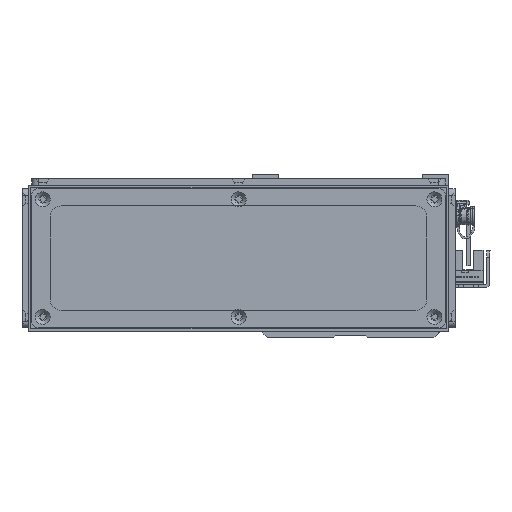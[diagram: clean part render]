
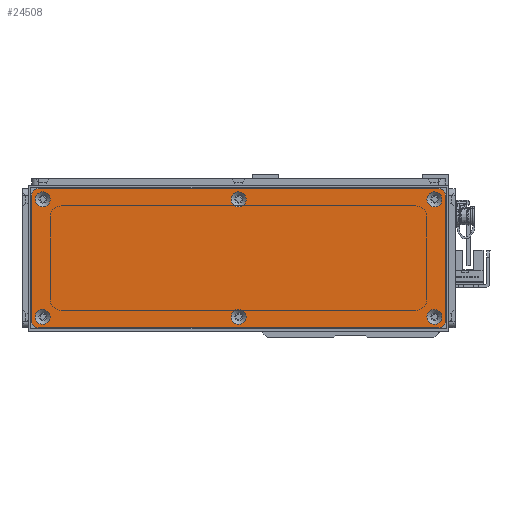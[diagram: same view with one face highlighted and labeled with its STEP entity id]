
A CAD part, left-side view. The second image highlights one B-rep face of the part: STEP entity #24508.
In plain terms, the highlighted planar face has unit normal (-1, 0, 0) as drawn and (0, 0, 1) by its records, which use the part's own axes.
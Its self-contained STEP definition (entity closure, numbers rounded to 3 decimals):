
#1009=FACE_BOUND('',#5280,.T.);
#1010=FACE_BOUND('',#5281,.T.);
#1011=FACE_BOUND('',#5282,.T.);
#1012=FACE_BOUND('',#5283,.T.);
#1013=FACE_BOUND('',#5284,.T.);
#1014=FACE_BOUND('',#5285,.T.);
#1609=PLANE('',#27562);
#3493=FACE_OUTER_BOUND('',#5279,.T.);
#5279=EDGE_LOOP('',(#22976,#22977,#22978,#22979,#22980,#22981,#22982,#22983));
#5280=EDGE_LOOP('',(#22984));
#5281=EDGE_LOOP('',(#22985));
#5282=EDGE_LOOP('',(#22986));
#5283=EDGE_LOOP('',(#22987));
#5284=EDGE_LOOP('',(#22988));
#5285=EDGE_LOOP('',(#22989));
#7254=LINE('',#43087,#9226);
#7257=LINE('',#43095,#9229);
#7260=LINE('',#43103,#9232);
#7263=LINE('',#43110,#9235);
#9226=VECTOR('',#34780,10.);
#9229=VECTOR('',#34789,10.);
#9232=VECTOR('',#34798,10.);
#9235=VECTOR('',#34807,10.);
#10506=CIRCLE('',#27516,3.45);
#10509=CIRCLE('',#27521,3.45);
#10512=CIRCLE('',#27526,3.45);
#10515=CIRCLE('',#27531,3.45);
#10518=CIRCLE('',#27536,3.45);
#10521=CIRCLE('',#27541,3.45);
#10528=CIRCLE('',#27551,3.);
#10529=CIRCLE('',#27554,3.);
#10530=CIRCLE('',#27557,3.);
#10531=CIRCLE('',#27560,3.);
#12764=VERTEX_POINT('',#43003);
#12767=VERTEX_POINT('',#43013);
#12770=VERTEX_POINT('',#43023);
#12773=VERTEX_POINT('',#43033);
#12776=VERTEX_POINT('',#43043);
#12779=VERTEX_POINT('',#43053);
#12790=VERTEX_POINT('',#43080);
#12791=VERTEX_POINT('',#43082);
#12792=VERTEX_POINT('',#43086);
#12793=VERTEX_POINT('',#43090);
#12794=VERTEX_POINT('',#43094);
#12795=VERTEX_POINT('',#43098);
#12796=VERTEX_POINT('',#43102);
#12797=VERTEX_POINT('',#43106);
#16146=EDGE_CURVE('',#12764,#12764,#10506,.T.);
#16151=EDGE_CURVE('',#12767,#12767,#10509,.T.);
#16156=EDGE_CURVE('',#12770,#12770,#10512,.T.);
#16161=EDGE_CURVE('',#12773,#12773,#10515,.T.);
#16166=EDGE_CURVE('',#12776,#12776,#10518,.T.);
#16171=EDGE_CURVE('',#12779,#12779,#10521,.T.);
#16185=EDGE_CURVE('',#12791,#12790,#10528,.T.);
#16187=EDGE_CURVE('',#12792,#12791,#7254,.T.);
#16189=EDGE_CURVE('',#12793,#12792,#10529,.T.);
#16191=EDGE_CURVE('',#12794,#12793,#7257,.T.);
#16193=EDGE_CURVE('',#12795,#12794,#10530,.T.);
#16195=EDGE_CURVE('',#12796,#12795,#7260,.T.);
#16197=EDGE_CURVE('',#12797,#12796,#10531,.T.);
#16199=EDGE_CURVE('',#12790,#12797,#7263,.T.);
#22976=ORIENTED_EDGE('',*,*,#16199,.T.);
#22977=ORIENTED_EDGE('',*,*,#16197,.T.);
#22978=ORIENTED_EDGE('',*,*,#16195,.T.);
#22979=ORIENTED_EDGE('',*,*,#16193,.T.);
#22980=ORIENTED_EDGE('',*,*,#16191,.T.);
#22981=ORIENTED_EDGE('',*,*,#16189,.T.);
#22982=ORIENTED_EDGE('',*,*,#16187,.T.);
#22983=ORIENTED_EDGE('',*,*,#16185,.T.);
#22984=ORIENTED_EDGE('',*,*,#16146,.T.);
#22985=ORIENTED_EDGE('',*,*,#16151,.T.);
#22986=ORIENTED_EDGE('',*,*,#16156,.T.);
#22987=ORIENTED_EDGE('',*,*,#16161,.T.);
#22988=ORIENTED_EDGE('',*,*,#16166,.T.);
#22989=ORIENTED_EDGE('',*,*,#16171,.T.);
#24508=ADVANCED_FACE('',(#3493,#1009,#1010,#1011,#1012,#1013,#1014),#1609,
 .T.);
#27516=AXIS2_PLACEMENT_3D('',#43004,#34688,#34689);
#27521=AXIS2_PLACEMENT_3D('',#43014,#34700,#34701);
#27526=AXIS2_PLACEMENT_3D('',#43024,#34712,#34713);
#27531=AXIS2_PLACEMENT_3D('',#43034,#34724,#34725);
#27536=AXIS2_PLACEMENT_3D('',#43044,#34736,#34737);
#27541=AXIS2_PLACEMENT_3D('',#43054,#34748,#34749);
#27551=AXIS2_PLACEMENT_3D('',#43083,#34775,#34776);
#27554=AXIS2_PLACEMENT_3D('',#43091,#34784,#34785);
#27557=AXIS2_PLACEMENT_3D('',#43099,#34793,#34794);
#27560=AXIS2_PLACEMENT_3D('',#43107,#34802,#34803);
#27562=AXIS2_PLACEMENT_3D('',#43111,#34808,#34809);
#34688=DIRECTION('center_axis',(0.,0.,-1.));
#34689=DIRECTION('ref_axis',(1.,0.,0.));
#34700=DIRECTION('center_axis',(0.,0.,-1.));
#34701=DIRECTION('ref_axis',(1.,0.,0.));
#34712=DIRECTION('center_axis',(0.,0.,-1.));
#34713=DIRECTION('ref_axis',(1.,0.,0.));
#34724=DIRECTION('center_axis',(0.,0.,-1.));
#34725=DIRECTION('ref_axis',(1.,0.,0.));
#34736=DIRECTION('center_axis',(0.,0.,-1.));
#34737=DIRECTION('ref_axis',(1.,0.,0.));
#34748=DIRECTION('center_axis',(0.,0.,-1.));
#34749=DIRECTION('ref_axis',(1.,0.,0.));
#34775=DIRECTION('center_axis',(0.,0.,1.));
#34776=DIRECTION('ref_axis',(0.,1.,0.));
#34780=DIRECTION('',(-1.,0.,0.));
#34784=DIRECTION('center_axis',(0.,0.,1.));
#34785=DIRECTION('ref_axis',(1.,0.,0.));
#34789=DIRECTION('',(0.,1.,0.));
#34793=DIRECTION('center_axis',(0.,0.,1.));
#34794=DIRECTION('ref_axis',(0.,-1.,0.));
#34798=DIRECTION('',(1.,0.,0.));
#34802=DIRECTION('center_axis',(0.,0.,1.));
#34803=DIRECTION('ref_axis',(-1.,0.,0.));
#34807=DIRECTION('',(0.,-1.,0.));
#34808=DIRECTION('center_axis',(0.,0.,1.));
#34809=DIRECTION('ref_axis',(1.,0.,0.));
#43003=CARTESIAN_POINT('',(-3.45,27.,1.5));
#43004=CARTESIAN_POINT('Origin',(0.,27.,1.5));
#43013=CARTESIAN_POINT('',(86.55,-27.,1.5));
#43014=CARTESIAN_POINT('Origin',(90.,-27.,1.5));
#43023=CARTESIAN_POINT('',(-93.45,27.,1.5));
#43024=CARTESIAN_POINT('Origin',(-90.,27.,1.5));
#43033=CARTESIAN_POINT('',(86.55,27.,1.5));
#43034=CARTESIAN_POINT('Origin',(90.,27.,1.5));
#43043=CARTESIAN_POINT('',(-93.45,-27.,1.5));
#43044=CARTESIAN_POINT('Origin',(-90.,-27.,1.5));
#43053=CARTESIAN_POINT('',(-3.45,-27.,1.5));
#43054=CARTESIAN_POINT('Origin',(0.,-27.,1.5));
#43080=CARTESIAN_POINT('',(-95.,29.,1.5));
#43082=CARTESIAN_POINT('',(-92.,32.,1.5));
#43083=CARTESIAN_POINT('Origin',(-92.,29.,1.5));
#43086=CARTESIAN_POINT('',(92.,32.,1.5));
#43087=CARTESIAN_POINT('',(92.,32.,1.5));
#43090=CARTESIAN_POINT('',(95.,29.,1.5));
#43091=CARTESIAN_POINT('Origin',(92.,29.,1.5));
#43094=CARTESIAN_POINT('',(95.,-29.,1.5));
#43095=CARTESIAN_POINT('',(95.,-29.,1.5));
#43098=CARTESIAN_POINT('',(92.,-32.,1.5));
#43099=CARTESIAN_POINT('Origin',(92.,-29.,1.5));
#43102=CARTESIAN_POINT('',(-92.,-32.,1.5));
#43103=CARTESIAN_POINT('',(-92.,-32.,1.5));
#43106=CARTESIAN_POINT('',(-95.,-29.,1.5));
#43107=CARTESIAN_POINT('Origin',(-92.,-29.,1.5));
#43110=CARTESIAN_POINT('',(-95.,29.,1.5));
#43111=CARTESIAN_POINT('Origin',(0.,0.,
1.5));
